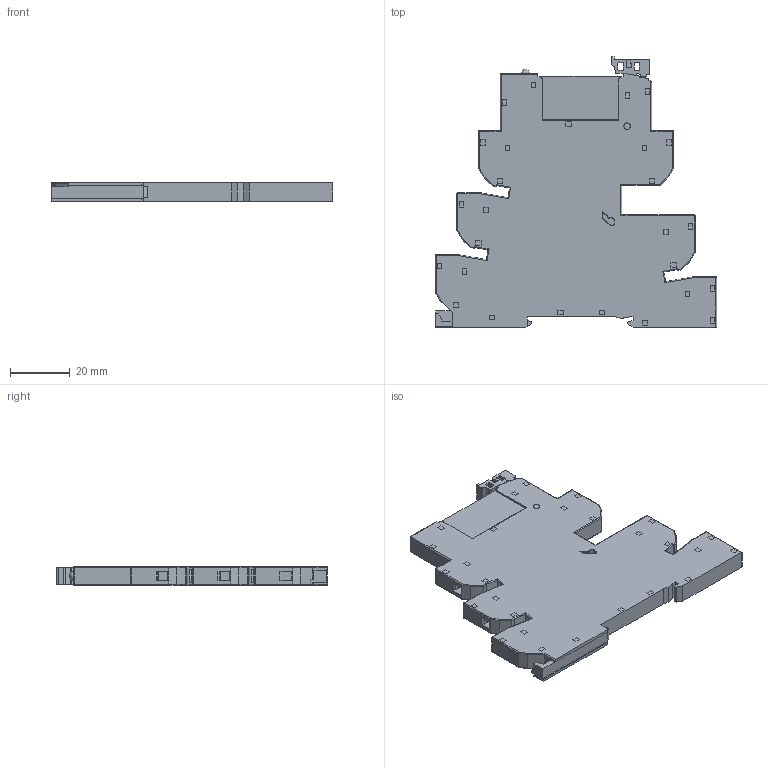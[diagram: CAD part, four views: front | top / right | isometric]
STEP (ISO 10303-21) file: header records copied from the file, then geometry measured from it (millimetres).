
FILE_DESCRIPTION(('STEP AP214'),'2;1');
FILE_NAME('3930=3481+9363.stp','2010-10-02T09:05:37',(''),(''),'2007.1.106','THINKDESIGN','');
FILE_SCHEMA(('AUTOMOTIVE_DESIGN'));
Products named in the file (1): None
Bounding box: 94.25 x 90.7 x 6.2 mm (x, y, z)
Surface area: 17901.5 mm2 (no closed solid volume)
Topology: 0 solids, 0 shells, 996 faces, 5860 edges, 5843 vertices
Faces by surface type: plane 813, cylinder 157, bspline 26
Full cylindrical faces by diameter (mm): 1.5 x5, 2.2 x2, 2.798 x5, 3.9 x5, 4.299 x5
Entity records: 57454 total; most frequent: CARTESIAN_POINT 14537, DIRECTION 7619, COMPOSITE_CURVE_SEGMENT 5845, TRIMMED_CURVE 5421, VECTOR 5163, LINE 5163, AXIS2_PLACEMENT_3D 1228, OUTER_BOUNDARY_CURVE 996
